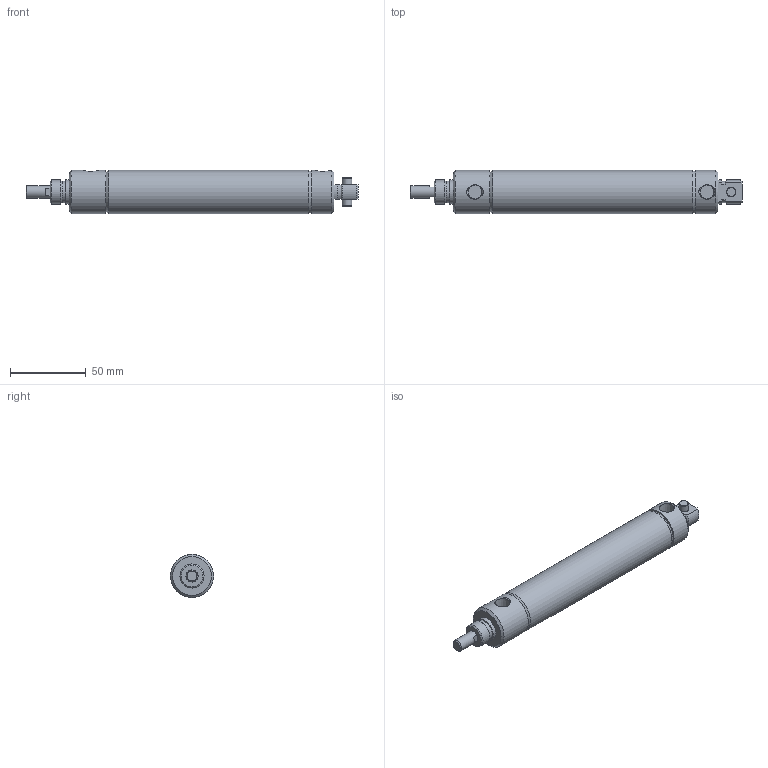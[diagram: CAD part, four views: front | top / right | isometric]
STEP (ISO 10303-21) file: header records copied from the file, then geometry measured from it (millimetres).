
FILE_DESCRIPTION( ( 'STEP AP214' ), '1' );
FILE_NAME( 'p:/temp/worker_443/temp/exporttempdir_3520_188_ZayYd/format_0/1062D02-04A.stp', '2020-05-07T16:38:27', ( 'License CC BY-ND 4.0' ), ( 'CADENAS' ), ' ', 'PARTsolutions', ' ' );
FILE_SCHEMA( ( 'AUTOMOTIVE_DESIGN { 1 0 10303 214 1 1 1 1 }' ) );
Length unit declared in the file: inch
Products named in the file (3): 1062D02-04A; _1062D02-04A-001062D02-04A-0000A00A0b; _1062D02-04A-001062D02-04A-0000A00A0r
Assembly tree (2 placements, depth 2):
  1062D02-04A
    _1062D02-04A-001062D02-04A-0000A00A0b
    _1062D02-04A-001062D02-04A-0000A00A0r
Bounding box: 219.07 x 28.57 x 28.57 mm (x, y, z)
Volume: 61659.7 mm3; surface area: 39956.3 mm2
Topology: 2 solids, 2 shells, 65 faces, 129 edges, 83 vertices
Faces by surface type: plane 27, cone 19, cylinder 19
Full cylindrical faces by diameter (mm): 6.35 x2, 7.95 x3, 14.196 x1, 15.85 x1, 15.875 x1, 26.987 x2, 28.397 x1, 28.575 x2
Entity records: 2276 total; most frequent: CARTESIAN_POINT 442, DIRECTION 280, ORIENTED_EDGE 204, AXIS2_PLACEMENT_3D 126, EDGE_LOOP 104, EDGE_CURVE 102, VERTEX_POINT 80, FACE_OUTER_BOUND 78
